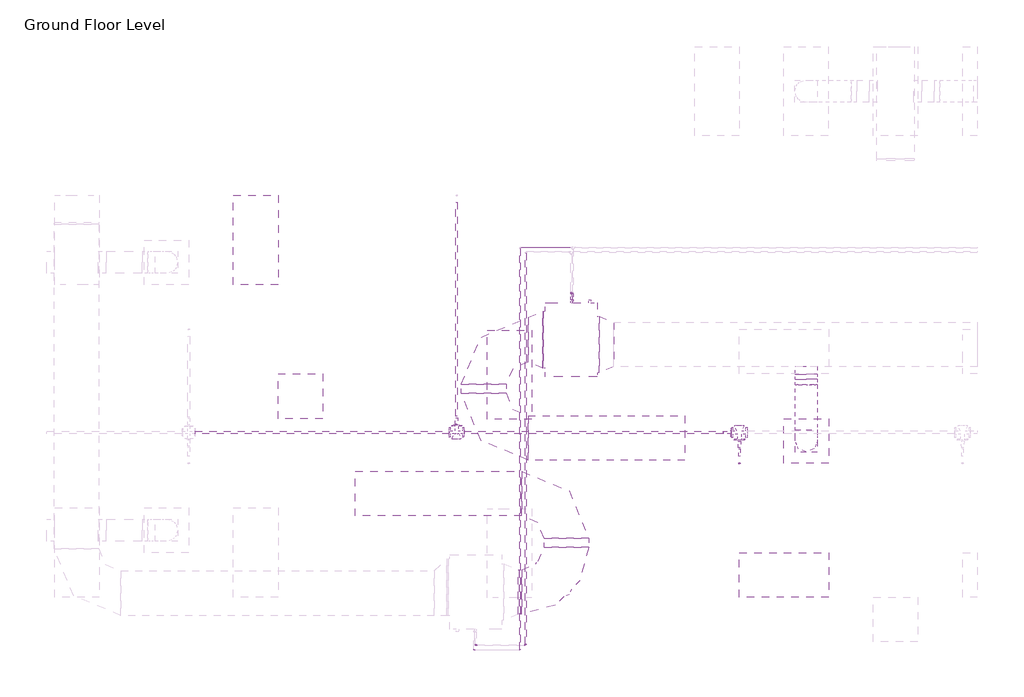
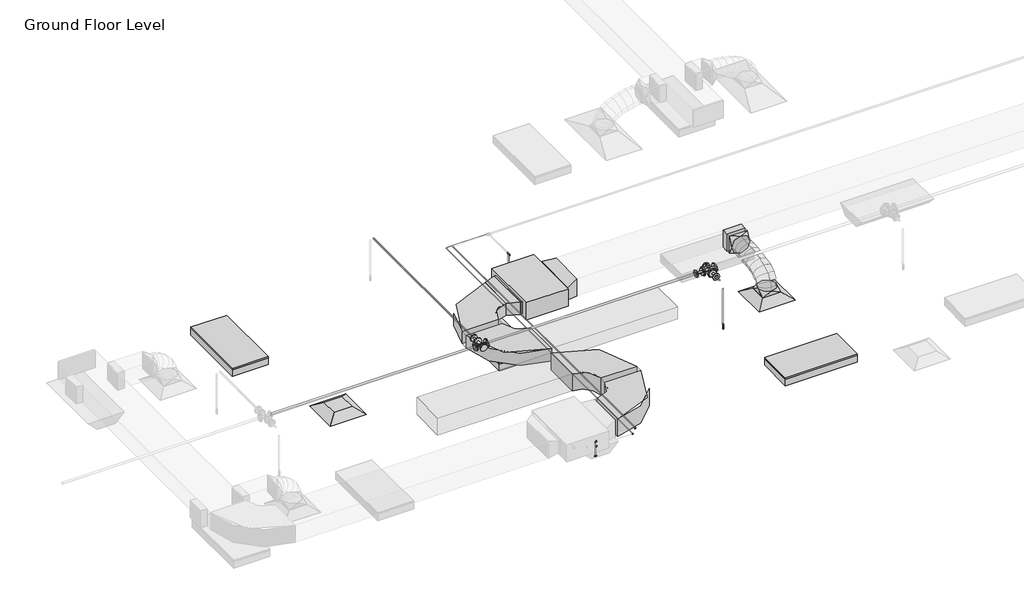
# One storey, part 12 of 75: 15 pipe fittings, 14 pipe segments, 9 duct fittings, 8 duct segments, 3 light fixtures, 2 air terminals, 1 fire suppression terminal, 1 proxy.
"""IFC4 building model written with IfcOpenShell, lengths in millimetres."""

from ifc_helpers import new_model, si_unit, point, frame, frame_2d, origin, place, context, project, spatial, polyline, circle_curve, ellipse_curve, trimmed, segment, composite_curve, outline, extrude, transform, mapped, element, save
from ifc_brep_helpers import plane_surface, cylinder_surface, advanced_brep
from components import m_return_diffuser_600_x_600_face_300_x_300_connection_ff221211, fcu_daikin_iu_7e1df382, m_rectangular_elbow_radius_1_w_907e8aaa, m_rectangular_elbow_radius_1_w_c6ed0251, m_rectangular_takeoff_standard_2be5eba1, m_rectangular_transition_angle_45_degree_ee72770e, m_rectangular_transition_angle_45_degree_4bb09f68, m_rectangular_to_round_transition_angle_45_degree_641efff0, m_sprinkler_dry_pendent_hosted_15_mm_dry_pendent_9bda8e11, m_troffer_light_parabolic_rectangular1_0600x1200mm_4_lamp_86473d4a, m_elbow_generic_standard_a088f956, m_elbow_generic_standard_2a704253, m_elbow_generic_standard_4cd29557, m_elbow_generic_standard_9f216293, m_reducer_flanged_cs_class_150_standard_b6b67c23, m_reducer_flanged_cs_class_150_standard_ccf252ad, m_reducer_flanged_cs_class_150_standard_678fb8eb, m_tee_round_base_flanged_cs_class_150_standard_7e5987a1, m_tee_round_base_flanged_cs_class_150_standard_9c9133d0

model = new_model("IFC4")

# Units and contexts
model_context = context("Model", 3, world=origin())
ifc_project = project(units=[si_unit("LENGTHUNIT", "METRE", prefix="MILLI")], contexts=[model_context])

# Site, building, storey
site = spatial("IfcSite", under=ifc_project)
building = spatial("IfcBuilding", under=site)
storey = spatial("IfcBuildingStorey", under=building, Name="Ground Floor Level", Elevation=900.0)

# Air terminals
placement = place(None, origin())
m_return_diffuser_600_x_600_face_300_x_300_connection_shape = m_return_diffuser_600_x_600_face_300_x_300_connection_ff221211(model_context)
element("IfcAirTerminal", 1, ObjectType="M_Return Diffuser : 600 x 600 Face 300 x 300 Connection", at=placement, inside=storey, context=model_context, shape_type="MappedRepresentation", body=[
    mapped(m_return_diffuser_600_x_600_face_300_x_300_connection_shape, transform((-14937.2327605, -2464.7846466, 3650.0), x_axis=(1.0, 0.0, 0.0), y_axis=(0.0, 1.0, 0.0), z_axis=(0.0, 0.0, 1.0))),
])
element("IfcAirTerminal", 2, ObjectType="M_Supply Diffuser : 600 x 600 Face 300 x 300 Connection", at=placement, inside=storey, context=model_context, shape_type="MappedRepresentation", body=[
    mapped(m_return_diffuser_600_x_600_face_300_x_300_connection_shape, transform((-8137.2327605, -3064.7846466, 3650.0), x_axis=(1.0, 0.0, 0.0), y_axis=(0.0, 1.0, 0.0), z_axis=(0.0, 0.0, 1.0))),
])

# Proxy
fcu_daikin_iu_shape = fcu_daikin_iu_7e1df382(model_context)
element("IfcBuildingElementProxy", 3, Name="FCU-DAIKIN IU : 5.7kW, 230V/50Hz/1Ph", ObjectType="FCU-DAIKIN IU : 5.7kW, 230V/50Hz/1Ph", at=placement, inside=storey, context=model_context, shape_type="MappedRepresentation", body=[
    mapped(fcu_daikin_iu_shape, transform((-11297.2327605, -1704.7846466, 3934.0873731), x_axis=(0.0, 1.0, 0.0), y_axis=(-1.0, 0.0, 0.0), z_axis=(0.0, 0.0, 1.0))),
])

# Duct fittings
m_rectangular_elbow_radius_1_w_shape = m_rectangular_elbow_radius_1_w_907e8aaa(model_context)
element("IfcDuctFitting", 4, ObjectType="M_Rectangular Elbow - Radius : 1 W", at=placement, inside=storey, context=model_context, shape_type="MappedRepresentation", body=[
    mapped(m_rectangular_elbow_radius_1_w_shape, transform((-12472.6327605, -1704.7846466, 4075.2873731), x_axis=(-1.0, 0.0, 0.0), y_axis=(0.0, -1.0, 0.0), z_axis=(0.0, 0.0, 1.0))),
])
element("IfcDuctFitting", 5, ObjectType="M_Rectangular Elbow - Radius : 1 W", at=placement, inside=storey, context=model_context, shape_type="MappedRepresentation", body=[
    mapped(m_rectangular_elbow_radius_1_w_shape, transform((-12472.6327605, -3024.7846466, 4075.2873731), x_axis=(0.0, -1.0, 0.0), y_axis=(1.0, 0.0, 0.0), z_axis=(0.0, 0.0, 1.0))),
])
m_rectangular_elbow_radius_1_w_2_shape = m_rectangular_elbow_radius_1_w_c6ed0251(model_context)
element("IfcDuctFitting", 6, ObjectType="M_Rectangular Elbow - Radius : 1 W", at=placement, inside=storey, context=model_context, shape_type="MappedRepresentation", body=[
    mapped(m_rectangular_elbow_radius_1_w_2_shape, transform((-11361.8327606, -5093.8471466, 4075.3020647), x_axis=(0.9999999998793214, 0.0, 1.5535678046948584e-05), y_axis=(0.0, 1.0000000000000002, 0.0), z_axis=(-1.5535678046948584e-05, 0.0, 0.9999999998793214))),
])
element("IfcDuctFitting", 7, ObjectType="M_Rectangular Elbow - Radius : 1 W", at=placement, inside=storey, context=model_context, shape_type="MappedRepresentation", body=[
    mapped(m_rectangular_elbow_radius_1_w_2_shape, transform((-11361.8327606, -3773.8471466, 4075.3020647), x_axis=(0.0, 1.0, 0.0), y_axis=(-1.0, 0.0, 0.0), z_axis=(0.0, 0.0, 1.0))),
])
m_rectangular_takeoff_standard_shape = m_rectangular_takeoff_standard_2be5eba1(model_context)
element("IfcDuctFitting", 8, ObjectType="M_Rectangular Takeoff : Standard", at=placement, inside=storey, context=model_context, shape_type="MappedRepresentation", body=[
    mapped(m_rectangular_takeoff_standard_shape, transform((-8137.2327605, -2068.2846466, 4099.9964558), x_axis=(0.0, -1.0, 0.0), y_axis=(-1.0, 0.0, 0.0), z_axis=(0.0, 0.0, -1.0))),
])
m_rectangular_transition_angle_45_degree_shape = m_rectangular_transition_angle_45_degree_ee72770e(model_context)
element("IfcDuctFitting", 9, ObjectType="M_Rectangular Transition - Angle : 45 Degree", at=placement, inside=storey, context=model_context, shape_type="MappedRepresentation", body=[
    mapped(m_rectangular_transition_angle_45_degree_shape, transform((-10921.8327605, -1768.2846466, 4099.9998731), x_axis=(1.0, 0.0, 0.0), y_axis=(0.0, 1.0, 0.0), z_axis=(0.0, 0.0, 1.0))),
])
m_rectangular_transition_angle_45_degree_2_shape = m_rectangular_transition_angle_45_degree_4bb09f68(model_context)
element("IfcDuctFitting", 10, ObjectType="M_Rectangular Transition - Angle : 45 Degree", at=placement, inside=storey, context=model_context, shape_type="MappedRepresentation", body=[
    mapped(m_rectangular_transition_angle_45_degree_2_shape, transform((-11872.6327605, -1704.7846466, 4075.2873731), x_axis=(1.0, 0.0, 0.0), y_axis=(0.0, 1.0, 0.0), z_axis=(0.0, 0.0, 1.0))),
])
m_rectangular_to_round_transition_angle_45_degree_shape = m_rectangular_to_round_transition_angle_45_degree_641efff0(model_context)
element("IfcDuctFitting", 11, ObjectType="M_Rectangular to Round Transition - Angle : 45 Degree", at=placement, inside=storey, context=model_context, shape_type="MappedRepresentation", body=[
    mapped(m_rectangular_to_round_transition_angle_45_degree_shape, transform((-8137.2327605, -3064.7846466, 3751.6), x_axis=(0.0, 0.0, 1.0), y_axis=(-1.0, 0.0, 0.0), z_axis=(0.0, -1.0, 0.0))),
])
element("IfcDuctFitting", 12, ObjectType="M_Rectangular to Round Transition - Angle : 45 Degree", at=placement, inside=storey, context=model_context, shape_type="MappedRepresentation", body=[
    mapped(m_rectangular_to_round_transition_angle_45_degree_shape, transform((-8137.2327605, -2237.4451712, 4099.9964558), x_axis=(0.0, -1.0, 0.0), y_axis=(1.0, 0.0, 0.0), z_axis=(0.0, 0.0, 1.0))),
])

# Duct segments
element("IfcDuctSegment", 13, ObjectType="Flex - Round", at=placement, inside=storey, context=model_context, shape_type="AdvancedBrep", body=[
    advanced_brep(
    [(-7987.2327605, -3064.7846466, 3826.6), (-8137.2327605, -3214.7846466, 3826.6), (-8287.2327605, -3064.7846466, 3826.6), (-8137.2327605, -2914.7846466, 3826.6), (-7987.2327605, -3064.7846466, 3857.9378602), (-8137.2327605, -3214.7846466, 3883.5812643), (-8287.2327605, -3064.7846466, 3857.9378602), (-8137.2327605, -2914.7846466, 3832.2944561), (-7987.2327605, -3047.7686158, 3906.2506375), (-8137.2327605, -3181.5063715, 3978.0666298), (-8287.2327605, -3047.7686158, 3906.2506375), (-8137.2327605, -2914.03086, 3834.4346451), (-7987.2327605, -3000.5844679, 3968.7111509), (-8137.2327605, -3104.7897605, 4079.6210528), (-8287.2327605, -3000.5844679, 3968.7111509), (-8137.2327605, -2896.3791753, 3857.801249), (-7987.2327605, -2929.0281198, 4016.0694592), (-8137.2327605, -2997.9612194, 4150.3236405), (-8287.2327605, -2929.0281198, 4016.0694592), (-8137.2327605, -2860.0950201, 3881.8152779), (-7987.2327605, -2838.8954883, 4050.4134811), (-8137.2327605, -2882.4552066, 4194.3359031), (-8287.2327605, -2838.8954883, 4050.4134811), (-8137.2327605, -2795.33577, 3906.4910592), (-7987.2327605, -2735.9824904, 4073.8311356), (-8137.2327605, -2762.5424239, 4221.6218258), (-8287.2327605, -2735.9824904, 4073.8311356), (-8137.2327605, -2709.4225569, 3926.0404454), (-7987.2327605, -2626.0850428, 4088.4103415), (-8137.2327605, -2641.2350842, 4237.7146898), (-8287.2327605, -2626.0850428, 4088.4103415), (-8137.2327605, -2610.9350014, 3939.1059931), (-7987.2327605, -2514.9990625, 4096.2390176), (-8137.2327605, -2522.5037209, 4246.0821669), (-8287.2327605, -2514.9990625, 4096.2390176), (-8137.2327605, -2507.4944041, 3946.3958683), (-7987.2327605, -2408.5204663, 4099.4050828), (-8137.2327605, -2411.2115659, 4249.3913598), (-8287.2327605, -2408.5204663, 4099.4050828), (-8137.2327605, -2405.8293668, 3949.4188057), (-7987.2327605, -2312.4451712, 4099.9964558), (-8137.2327605, -2311.5218924, 3949.9992973), (-8287.2327605, -2312.4451712, 4099.9964558), (-8137.2327605, -2313.36845, 4249.9936143)],
    [
        (0, 1, circle_curve(frame((-8137.2327605, -3064.7846466, 3826.6), z_axis=(0.0, 0.0, -1.0), x_axis=(1.0, 0.0, 0.0)), 150.0)),
        (1, 2, circle_curve(frame((-8137.2327605, -3064.7846466, 3826.6), z_axis=(0.0, 0.0, -1.0), x_axis=(1.0, 0.0, 0.0)), 150.0)),
        (2, 3, circle_curve(frame((-8137.2327605, -3064.7846466, 3826.6), z_axis=(0.0, 0.0, -1.0), x_axis=(1.0, 0.0, 0.0)), 150.0)),
        (3, 0, circle_curve(frame((-8137.2327605, -3064.7846466, 3826.6), z_axis=(0.0, 0.0, -1.0), x_axis=(1.0, 0.0, 0.0)), 150.0)),
        (0, 4),
        (4, 5, ellipse_curve(frame((-8137.2327605, -3064.7846466, 3857.9378602), z_axis=(0.0, -0.16851130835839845, -0.9856997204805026), x_axis=(0.0, 0.9856997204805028, -0.1685113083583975)), 152.1761616, 150.0)),
        (5, 1),
        (5, 6, ellipse_curve(frame((-8137.2327605, -3064.7846466, 3857.9378602), z_axis=(0.0, -0.16851130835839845, -0.9856997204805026), x_axis=(0.0, 0.9856997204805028, -0.1685113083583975)), 152.1761616, 150.0)),
        (6, 2),
        (6, 7, ellipse_curve(frame((-8137.2327605, -3064.7846466, 3857.9378602), z_axis=(0.0, -0.16851130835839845, -0.9856997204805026), x_axis=(0.0, 0.9856997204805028, -0.1685113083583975)), 152.1761616, 150.0)),
        (7, 3),
        (7, 4, ellipse_curve(frame((-8137.2327605, -3064.7846466, 3857.9378602), z_axis=(0.0, -0.16851130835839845, -0.9856997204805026), x_axis=(0.0, 0.9856997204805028, -0.1685113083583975)), 152.1761616, 150.0)),
        (4, 8),
        (8, 9, ellipse_curve(frame((-8137.2327605, -3047.7686158, 3906.2506375), z_axis=(0.0, -0.47309526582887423, -0.8810112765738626), x_axis=(0.0, 0.8810112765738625, -0.4730952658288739)), 151.8002769, 150.0)),
        (9, 5),
        (9, 10, ellipse_curve(frame((-8137.2327605, -3047.7686158, 3906.2506375), z_axis=(0.0, -0.47309526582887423, -0.8810112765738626), x_axis=(0.0, 0.8810112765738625, -0.4730952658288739)), 151.8002769, 150.0)),
        (10, 6),
        (10, 11, ellipse_curve(frame((-8137.2327605, -3047.7686158, 3906.2506375), z_axis=(0.0, -0.47309526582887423, -0.8810112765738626), x_axis=(0.0, 0.8810112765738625, -0.4730952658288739)), 151.8002769, 150.0)),
        (11, 7),
        (11, 8, ellipse_curve(frame((-8137.2327605, -3047.7686158, 3906.2506375), z_axis=(0.0, -0.47309526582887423, -0.8810112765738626), x_axis=(0.0, 0.8810112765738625, -0.4730952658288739)), 151.8002769, 150.0)),
        (8, 12),
        (12, 13, ellipse_curve(frame((-8137.2327605, -3000.5844679, 3968.7111509), z_axis=(0.0, -0.7287916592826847, -0.6847355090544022), x_axis=(0.0, 0.6847355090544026, -0.7287916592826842)), 152.1832755, 150.0)),
        (13, 9),
        (13, 14, ellipse_curve(frame((-8137.2327605, -3000.5844679, 3968.7111509), z_axis=(0.0, -0.7287916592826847, -0.6847355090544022), x_axis=(0.0, 0.6847355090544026, -0.7287916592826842)), 152.1832755, 150.0)),
        (14, 10),
        (14, 15, ellipse_curve(frame((-8137.2327605, -3000.5844679, 3968.7111509), z_axis=(0.0, -0.7287916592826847, -0.6847355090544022), x_axis=(0.0, 0.6847355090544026, -0.7287916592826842)), 152.1832755, 150.0)),
        (15, 11),
        (15, 12, ellipse_curve(frame((-8137.2327605, -3000.5844679, 3968.7111509), z_axis=(0.0, -0.7287916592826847, -0.6847355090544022), x_axis=(0.0, 0.6847355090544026, -0.7287916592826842)), 152.1832755, 150.0)),
        (12, 16),
        (16, 17, ellipse_curve(frame((-8137.2327605, -2929.0281198, 4016.0694592), z_axis=(0.0, -0.8895891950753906, -0.45676149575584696), x_axis=(0.0, 0.45676149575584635, -0.8895891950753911)), 150.9170548, 150.0)),
        (17, 13),
        (17, 18, ellipse_curve(frame((-8137.2327605, -2929.0281198, 4016.0694592), z_axis=(0.0, -0.8895891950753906, -0.45676149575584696), x_axis=(0.0, 0.45676149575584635, -0.8895891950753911)), 150.9170548, 150.0)),
        (18, 14),
        (18, 19, ellipse_curve(frame((-8137.2327605, -2929.0281198, 4016.0694592), z_axis=(0.0, -0.8895891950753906, -0.45676149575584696), x_axis=(0.0, 0.45676149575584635, -0.8895891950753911)), 150.9170548, 150.0)),
        (19, 15),
        (19, 16, ellipse_curve(frame((-8137.2327605, -2929.0281198, 4016.0694592), z_axis=(0.0, -0.8895891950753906, -0.45676149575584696), x_axis=(0.0, 0.45676149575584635, -0.8895891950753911)), 150.9170548, 150.0)),
        (16, 20),
        (20, 21, ellipse_curve(frame((-8137.2327605, -2838.8954883, 4050.4134811), z_axis=(0.0, -0.9571224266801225, -0.2896837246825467), x_axis=(0.0, 0.2896837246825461, -0.9571224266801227)), 150.3699192, 150.0)),
        (21, 17),
        (21, 22, ellipse_curve(frame((-8137.2327605, -2838.8954883, 4050.4134811), z_axis=(0.0, -0.9571224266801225, -0.2896837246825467), x_axis=(0.0, 0.2896837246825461, -0.9571224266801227)), 150.3699192, 150.0)),
        (22, 18),
        (22, 23, ellipse_curve(frame((-8137.2327605, -2838.8954883, 4050.4134811), z_axis=(0.0, -0.9571224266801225, -0.2896837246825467), x_axis=(0.0, 0.2896837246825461, -0.9571224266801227)), 150.3699192, 150.0)),
        (23, 19),
        (23, 20, ellipse_curve(frame((-8137.2327605, -2838.8954883, 4050.4134811), z_axis=(0.0, -0.9571224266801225, -0.2896837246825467), x_axis=(0.0, 0.2896837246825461, -0.9571224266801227)), 150.3699192, 150.0)),
        (20, 24),
        (24, 25, ellipse_curve(frame((-8137.2327605, -2735.9824904, 4073.8311356), z_axis=(0.0, -0.984232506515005, -0.17687954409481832), x_axis=(0.0, 0.17687954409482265, -0.9842325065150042)), 150.1583104, 150.0)),
        (25, 21),
        (25, 26, ellipse_curve(frame((-8137.2327605, -2735.9824904, 4073.8311356), z_axis=(0.0, -0.984232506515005, -0.17687954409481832), x_axis=(0.0, 0.17687954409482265, -0.9842325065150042)), 150.1583104, 150.0)),
        (26, 22),
        (26, 27, ellipse_curve(frame((-8137.2327605, -2735.9824904, 4073.8311356), z_axis=(0.0, -0.984232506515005, -0.17687954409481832), x_axis=(0.0, 0.17687954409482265, -0.9842325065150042)), 150.1583104, 150.0)),
        (27, 23),
        (27, 24, ellipse_curve(frame((-8137.2327605, -2735.9824904, 4073.8311356), z_axis=(0.0, -0.984232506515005, -0.17687954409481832), x_axis=(0.0, 0.17687954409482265, -0.9842325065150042)), 150.1583104, 150.0)),
        (24, 28),
        (28, 29, ellipse_curve(frame((-8137.2327605, -2626.0850428, 4088.4103415), z_axis=(0.0, -0.9948912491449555, -0.10095247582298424), x_axis=(0.0, 0.10095247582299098, -0.9948912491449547)), 150.0710238, 150.0)),
        (29, 25),
        (29, 30, ellipse_curve(frame((-8137.2327605, -2626.0850428, 4088.4103415), z_axis=(0.0, -0.9948912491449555, -0.10095247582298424), x_axis=(0.0, 0.10095247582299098, -0.9948912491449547)), 150.0710238, 150.0)),
        (30, 26),
        (30, 31, ellipse_curve(frame((-8137.2327605, -2626.0850428, 4088.4103415), z_axis=(0.0, -0.9948912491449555, -0.10095247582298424), x_axis=(0.0, 0.10095247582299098, -0.9948912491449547)), 150.0710238, 150.0)),
        (31, 27),
        (31, 28, ellipse_curve(frame((-8137.2327605, -2626.0850428, 4088.4103415), z_axis=(0.0, -0.9948912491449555, -0.10095247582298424), x_axis=(0.0, 0.10095247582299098, -0.9948912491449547)), 150.0710238, 150.0)),
        (28, 32),
        (32, 33, ellipse_curve(frame((-8137.2327605, -2514.9990625, 4096.2390176), z_axis=(0.0, -0.9987481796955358, -0.05002073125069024), x_axis=(0.0, 0.05002073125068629, -0.998748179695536)), 150.0309611, 150.0)),
        (33, 29),
        (33, 34, ellipse_curve(frame((-8137.2327605, -2514.9990625, 4096.2390176), z_axis=(0.0, -0.9987481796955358, -0.05002073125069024), x_axis=(0.0, 0.05002073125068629, -0.998748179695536)), 150.0309611, 150.0)),
        (34, 30),
        (34, 35, ellipse_curve(frame((-8137.2327605, -2514.9990625, 4096.2390176), z_axis=(0.0, -0.9987481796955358, -0.05002073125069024), x_axis=(0.0, 0.05002073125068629, -0.998748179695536)), 150.0309611, 150.0)),
        (35, 31),
        (35, 32, ellipse_curve(frame((-8137.2327605, -2514.9990625, 4096.2390176), z_axis=(0.0, -0.9987481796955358, -0.05002073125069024), x_axis=(0.0, 0.05002073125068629, -0.998748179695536)), 150.0309611, 150.0)),
        (32, 36),
        (36, 37, ellipse_curve(frame((-8137.2327605, -2408.5204663, 4099.4050828), z_axis=(0.0, -0.9998390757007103, -0.017939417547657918), x_axis=(0.0, 0.01793941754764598, -0.9998390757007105)), 150.0104173, 150.0)),
        (37, 33),
        (37, 38, ellipse_curve(frame((-8137.2327605, -2408.5204663, 4099.4050828), z_axis=(0.0, -0.9998390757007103, -0.017939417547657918), x_axis=(0.0, 0.01793941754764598, -0.9998390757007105)), 150.0104173, 150.0)),
        (38, 34),
        (38, 39, ellipse_curve(frame((-8137.2327605, -2408.5204663, 4099.4050828), z_axis=(0.0, -0.9998390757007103, -0.017939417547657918), x_axis=(0.0, 0.01793941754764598, -0.9998390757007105)), 150.0104173, 150.0)),
        (39, 35),
        (39, 36, ellipse_curve(frame((-8137.2327605, -2408.5204663, 4099.4050828), z_axis=(0.0, -0.9998390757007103, -0.017939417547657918), x_axis=(0.0, 0.01793941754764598, -0.9998390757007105)), 150.0104173, 150.0)),
        (40, 41, circle_curve(frame((-8137.2327605, -2312.4451712, 4099.9964558), z_axis=(0.0, 0.9999810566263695, 0.006155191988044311), x_axis=(1.0, 0.0, 0.0)), 150.0)),
        (41, 42, circle_curve(frame((-8137.2327605, -2312.4451712, 4099.9964558), z_axis=(0.0, 0.9999810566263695, 0.006155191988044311), x_axis=(1.0, 0.0, 0.0)), 150.0)),
        (42, 43, circle_curve(frame((-8137.2327605, -2312.4451712, 4099.9964558), z_axis=(0.0, 0.9999810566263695, 0.006155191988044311), x_axis=(1.0, 0.0, 0.0)), 150.0)),
        (43, 40, circle_curve(frame((-8137.2327605, -2312.4451712, 4099.9964558), z_axis=(0.0, 0.9999810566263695, 0.006155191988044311), x_axis=(1.0, 0.0, 0.0)), 150.0)),
        (36, 40),
        (43, 37),
        (42, 38),
        (41, 39),
    ],
    [
        plane_surface(frame((-8137.2327605, -3214.7846466, 3826.6), z_axis=(0.0, 0.0, -1.0), x_axis=(1.0, 0.0, 0.0))),
        cylinder_surface(frame((-8137.2327605, -3064.7846466, 3826.6), z_axis=(0.0, 0.0, -1.0), x_axis=(1.0, 0.0, 0.0)), 150.0),
        cylinder_surface(frame((-8137.2327605, -3064.7846466, 3857.9378602), z_axis=(0.0, -0.3322030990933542, -0.9432078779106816), x_axis=(1.0, 0.0, 0.0)), 150.0),
        cylinder_surface(frame((-8137.2327605, -3047.7686158, 3906.2506375), z_axis=(0.0, -0.6027660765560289, -0.7979179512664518), x_axis=(1.0, 0.0, 0.0)), 150.0),
        cylinder_surface(frame((-8137.2327605, -3000.5844679, 3968.7111509), z_axis=(0.0, -0.8339062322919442, -0.5519061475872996), x_axis=(1.0, 0.0, 0.0)), 150.0),
        cylinder_surface(frame((-8137.2327605, -2929.0281198, 4016.0694592), z_axis=(0.0, -0.9344608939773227, -0.356065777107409), x_axis=(1.0, 0.0, 0.0)), 150.0),
        cylinder_surface(frame((-8137.2327605, -2838.8954883, 4050.4134811), z_axis=(0.0, -0.9750748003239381, -0.22187639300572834), x_axis=(1.0, 0.0, 0.0)), 150.0),
        cylinder_surface(frame((-8137.2327605, -2735.9824904, 4073.8311356), z_axis=(0.0, -0.9913148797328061, -0.13150973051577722), x_axis=(1.0, 0.0, 0.0)), 150.0),
        cylinder_surface(frame((-8137.2327605, -2626.0850428, 4088.4103415), z_axis=(0.0, -0.9975259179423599, -0.07029966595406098), x_axis=(1.0, 0.0, 0.0)), 150.0),
        cylinder_surface(frame((-8137.2327605, -2514.9990625, 4096.2390176), z_axis=(0.0, -0.9995582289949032, -0.029721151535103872), x_axis=(1.0, 0.0, 0.0)), 150.0),
        plane_surface(frame((-8137.2327605, -2313.36845, 4249.9936143), z_axis=(0.0, 0.9999810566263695, 0.006155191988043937), x_axis=(1.0, 0.0, 0.0))),
        cylinder_surface(frame((-8137.2327605, -2408.5204663, 4099.4050828), z_axis=(0.0, -0.9999810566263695, -0.006155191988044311), x_axis=(1.0, 0.0, 0.0)), 150.0),
    ],
    [
        (0, [[1, 2, 3, 4]]),
        (1, [[-1, 5, 6, 7]]),
        (1, [[-2, -7, 8, 9]]),
        (1, [[-3, -9, 10, 11]]),
        (1, [[-4, -11, 12, -5]]),
        (2, [[-6, 13, 14, 15]]),
        (2, [[-8, -15, 16, 17]]),
        (2, [[-10, -17, 18, 19]]),
        (2, [[-12, -19, 20, -13]]),
        (3, [[-14, 21, 22, 23]]),
        (3, [[-16, -23, 24, 25]]),
        (3, [[-18, -25, 26, 27]]),
        (3, [[-20, -27, 28, -21]]),
        (4, [[-22, 29, 30, 31]]),
        (4, [[-24, -31, 32, 33]]),
        (4, [[-26, -33, 34, 35]]),
        (4, [[-28, -35, 36, -29]]),
        (5, [[-30, 37, 38, 39]]),
        (5, [[-32, -39, 40, 41]]),
        (5, [[-34, -41, 42, 43]]),
        (5, [[-36, -43, 44, -37]]),
        (6, [[-38, 45, 46, 47]]),
        (6, [[-40, -47, 48, 49]]),
        (6, [[-42, -49, 50, 51]]),
        (6, [[-44, -51, 52, -45]]),
        (7, [[-46, 53, 54, 55]]),
        (7, [[-48, -55, 56, 57]]),
        (7, [[-50, -57, 58, 59]]),
        (7, [[-52, -59, 60, -53]]),
        (8, [[-54, 61, 62, 63]]),
        (8, [[-56, -63, 64, 65]]),
        (8, [[-58, -65, 66, 67]]),
        (8, [[-60, -67, 68, -61]]),
        (9, [[-62, 69, 70, 71]]),
        (9, [[-64, -71, 72, 73]]),
        (9, [[-66, -73, 74, 75]]),
        (9, [[-68, -75, 76, -69]]),
        (10, [[77, 78, 79, 80]]),
        (11, [[-70, 81, -80, 82]]),
        (11, [[-72, -82, -79, 83]]),
        (11, [[-74, -83, -78, 84]]),
        (11, [[-76, -84, -77, -81]]),
    ],
),
])
element("IfcDuctSegment", 14, ObjectType="Radius Elbows / Taps", at=placement, inside=storey, context=model_context, shape_type="SweptSolid", body=[
    extrude(outline(polyline([(-11672.6327605, -1323.8471466), (-11672.6327605, -2085.7221466), (-11677.2323503, -2085.7221466), (-11677.2323503, -1323.8471466), (-11672.6327605, -1323.8471466)])), frame((0.0, 0.0, 3968.1373731), z_axis=(0.0, 0.0, 1.0), x_axis=(1.0, 0.0, 0.0)), (0.0, 0.0, 1.0), 214.3),
])
element("IfcDuctSegment", 15, ObjectType="Radius Elbows / Taps", at=placement, inside=storey, context=model_context, shape_type="SweptSolid", body=[
    extrude(outline(polyline([(-12772.6327605, -2304.7846466), (-12172.6327605, -2304.7846466), (-12172.6327605, -2424.7846466), (-12772.6327605, -2424.7846466), (-12772.6327605, -2304.7846466)])), frame((0.0, 0.0, 3968.2873731), z_axis=(0.0, 0.0, 1.0), x_axis=(1.0, 0.0, 0.0)), (0.0, 0.0, 1.0), 214.0),
])
element("IfcDuctSegment", 16, ObjectType="Radius Elbows / Taps", at=placement, inside=storey, context=model_context, shape_type="SweptSolid", body=[
    extrude(outline(polyline([(-11872.6327605, -3324.7846466), (-11872.6327605, -2724.7846466), (-9772.6327605, -2724.7846466), (-9772.6327605, -3324.7846466), (-11872.6327605, -3324.7846466)])), frame((0.0, 0.0, 3968.2873731), z_axis=(0.0, 0.0, 1.0), x_axis=(1.0, 0.0, 0.0)), (0.0, 0.0, 1.0), 214.0),
])
element("IfcDuctSegment", 17, ObjectType="Radius Elbows / Taps", at=placement, inside=storey, context=model_context, shape_type="SweptSolid", body=[
    extrude(outline(polyline([(0.0, -600.0), (0.0, 0.0), (44.5995899, 0.0), (44.5995899, -600.0), (0.0, -600.0)])), frame((-12006.4216599, -4793.8471466, 3925.2895651), z_axis=(-7.126956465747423e-05, 0.0, 0.9999999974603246), x_axis=(0.9999999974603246, 0.0, 7.126956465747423e-05)), (0.0, 0.0, 1.0), 300.0),
])
element("IfcDuctSegment", 18, ObjectType="Radius Elbows / Taps", at=placement, inside=storey, context=model_context, shape_type="SweptSolid", body=[
    extrude(outline(polyline([(-11061.8327606, -4493.8471466), (-11661.8327606, -4493.8471466), (-11661.8327606, -4373.8471466), (-11061.8327606, -4373.8471466), (-11061.8327606, -4493.8471466)])), frame((0.0, 0.0, 3925.3020647), z_axis=(0.0, 0.0, 1.0), x_axis=(1.0, 0.0, 0.0)), (0.0, 0.0, 1.0), 300.0),
])
element("IfcDuctSegment", 19, ObjectType="Radius Elbows / Taps", at=placement, inside=storey, context=model_context, shape_type="SweptSolid", body=[
    extrude(outline(polyline([(-11961.8327606, -3473.8471466), (-11961.8327606, -4073.8471466), (-14201.8327606, -4073.8471466), (-14201.8327606, -3473.8471466), (-11961.8327606, -3473.8471466)])), frame((0.0, 0.0, 3925.3020647), z_axis=(0.0, 0.0, 1.0), x_axis=(1.0, 0.0, 0.0)), (0.0, 0.0, 1.0), 300.0),
])
element("IfcDuctSegment", 20, ObjectType="Radius Elbows / Taps", at=placement, inside=storey, context=model_context, shape_type="SweptSolid", body=[
    extrude(outline(polyline([(-8287.2327605, -2169.8846466), (-7987.2327605, -2169.8846466), (-7987.2327605, -2237.4451712), (-8287.2327605, -2237.4451712), (-8287.2327605, -2169.8846466)])), frame((0.0, 0.0, 3949.9964558), z_axis=(0.0, 0.0, 1.0), x_axis=(1.0, 0.0, 0.0)), (0.0, 0.0, 1.0), 300.0),
])

# Fire suppression terminal
m_sprinkler_dry_pendent_hosted_15_mm_dry_pendent_shape = m_sprinkler_dry_pendent_hosted_15_mm_dry_pendent_9bda8e11(model_context)
element("IfcFireSuppressionTerminal", 21, ObjectType="M_Sprinkler - Dry - Pendent - Hosted : 15 mm Dry Pendent", at=placement, inside=storey, context=model_context, shape_type="MappedRepresentation", body=[
    mapped(m_sprinkler_dry_pendent_hosted_15_mm_dry_pendent_shape, transform((-9037.2327605, -3364.7846466, 3650.0), x_axis=(1.0, 0.0, 0.0), y_axis=(0.0, -1.0, 0.0), z_axis=(0.0, 0.0, -1.0))),
])

# Light fixtures
m_troffer_light_parabolic_rectangular1_0600x1200mm_4_lamp_shape = m_troffer_light_parabolic_rectangular1_0600x1200mm_4_lamp_86473d4a(model_context)
element("IfcLightFixture", 22, ObjectType="M_Troffer Light - Parabolic Rectangular1 : 0600x1200mm(4 Lamp) - 277V 2", at=placement, inside=storey, context=model_context, shape_type="MappedRepresentation", body=[
    mapped(m_troffer_light_parabolic_rectangular1_0600x1200mm_4_lamp_shape, transform((-8418.5292589, -4805.3187145, 3650.0), x_axis=(1.0, 0.0, 0.0), y_axis=(0.0, 1.0, 0.0), z_axis=(0.0, 0.0, 1.0))),
])
element("IfcLightFixture", 23, ObjectType="M_Troffer Light - Parabolic Rectangular1 : 0600x1200mm(4 Lamp) - 277V 2", at=placement, inside=storey, context=model_context, shape_type="MappedRepresentation", body=[
    mapped(m_troffer_light_parabolic_rectangular1_0600x1200mm_4_lamp_shape, transform((-15596.6986926, -346.081145, 3650.0), x_axis=(0.0, 1.0, 0.0), y_axis=(-1.0, 0.0, 0.0), z_axis=(0.0, 0.0, 1.0))),
])
element("IfcLightFixture", 24, ObjectType="M_Troffer Light - Parabolic Rectangular1 : 0600x1200mm(4 Lamp) - 277V 2", at=placement, inside=storey, context=model_context, shape_type="MappedRepresentation", body=[
    mapped(m_troffer_light_parabolic_rectangular1_0600x1200mm_4_lamp_shape, transform((-12186.6986926, -2156.081145, 3650.0), x_axis=(0.0, 1.0, 0.0), y_axis=(-1.0, 0.0, 0.0), z_axis=(0.0, 0.0, 1.0))),
])

# Pipe fittings
m_elbow_generic_standard_shape = m_elbow_generic_standard_a088f956(model_context)
element("IfcPipeFitting", 25, ObjectType="M_Elbow - Generic : Standard", at=placement, inside=storey, context=model_context, shape_type="MappedRepresentation", body=[
    mapped(m_elbow_generic_standard_shape, transform((-11297.2327605, -1071.9971568, 4034.0873731), x_axis=(0.0, 1.0, 0.0), y_axis=(0.0, 0.0, 1.0), z_axis=(1.0, 0.0, 0.0))),
])
element("IfcPipeFitting", 26, ObjectType="M_Elbow - Generic : Standard", at=placement, inside=storey, context=model_context, shape_type="MappedRepresentation", body=[
    mapped(m_elbow_generic_standard_shape, transform((-11297.2327605, -1071.9971568, 4300.0), x_axis=(0.0, 0.0, 1.0), y_axis=(0.0, 1.0, 0.0), z_axis=(-1.0, 0.0, 0.0))),
])
element("IfcPipeFitting", 27, ObjectType="M_Elbow - Generic : Standard", at=placement, inside=storey, context=model_context, shape_type="MappedRepresentation", body=[
    mapped(m_elbow_generic_standard_shape, transform((-12577.2327605, -5809.7026455, 4300.0), x_axis=(-1.0, 0.0, 0.0), y_axis=(0.0, 0.0, -1.0), z_axis=(0.0, -1.0, 0.0))),
])
element("IfcPipeFitting", 28, ObjectType="M_Elbow - Generic : Standard", at=placement, inside=storey, context=model_context, shape_type="MappedRepresentation", body=[
    mapped(m_elbow_generic_standard_shape, transform((-11906.7458667, -5809.7026455, 4300.0), x_axis=(1.0, 0.0, 0.0), y_axis=(0.0, 1.0, 0.0), z_axis=(0.0, 0.0, 1.0))),
])
m_elbow_generic_standard_2_shape = m_elbow_generic_standard_2a704253(model_context)
element("IfcPipeFitting", 29, ObjectType="M_Elbow - Generic : Standard", at=placement, inside=storey, context=model_context, shape_type="MappedRepresentation", body=[
    mapped(m_elbow_generic_standard_2_shape, transform((-11272.2327605, -1075.1472648, 4084.8873731), x_axis=(0.0, 1.0, 0.0), y_axis=(0.0, 0.0, 1.0), z_axis=(1.0, 0.0, 0.0))),
])
element("IfcPipeFitting", 30, ObjectType="M_Elbow - Generic : Standard", at=placement, inside=storey, context=model_context, shape_type="MappedRepresentation", body=[
    mapped(m_elbow_generic_standard_2_shape, transform((-11272.2327605, -1075.1472648, 4265.0), x_axis=(0.0, 0.0, 1.0), y_axis=(0.0, 1.0, 0.0), z_axis=(-1.0, 0.0, 0.0))),
])
element("IfcPipeFitting", 31, ObjectType="M_Elbow - Generic : Standard", at=placement, inside=storey, context=model_context, shape_type="MappedRepresentation", body=[
    mapped(m_elbow_generic_standard_2_shape, transform((-12602.2327605, -5874.8439862, 4265.0), x_axis=(0.0, 0.0, 1.0), y_axis=(1.0, 0.0, 0.0), z_axis=(0.0, 1.0, 0.0))),
])
element("IfcPipeFitting", 32, ObjectType="M_Elbow - Generic : Standard", at=placement, inside=storey, context=model_context, shape_type="MappedRepresentation", body=[
    mapped(m_elbow_generic_standard_2_shape, transform((-11985.4153711, -5874.8439862, 4265.0), x_axis=(1.0, 0.0, 0.0), y_axis=(0.0, 1.0, 0.0), z_axis=(0.0, 0.0, 1.0))),
])
m_elbow_generic_standard_3_shape = m_elbow_generic_standard_4cd29557(model_context)
element("IfcPipeFitting", 33, ObjectType="M_Elbow - Generic : Standard", at=placement, inside=storey, context=model_context, shape_type="MappedRepresentation", body=[
    mapped(m_elbow_generic_standard_3_shape, transform((-12577.2327605, -5809.7208827, 4034.1117864), x_axis=(0.0, 0.0, -1.0), y_axis=(0.0, 1.0, 0.0), z_axis=(1.0, 0.0, 0.0))),
])
m_elbow_generic_standard_4_shape = m_elbow_generic_standard_9f216293(model_context)
element("IfcPipeFitting", 34, ObjectType="M_Elbow - Generic : Standard", at=placement, inside=storey, context=model_context, shape_type="MappedRepresentation", body=[
    mapped(m_elbow_generic_standard_4_shape, transform((-12602.2327605, -5874.8531048, 4084.9047463), x_axis=(0.0, -0.999999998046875, 6.250000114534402e-05), y_axis=(0.0, 6.250000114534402e-05, 0.999999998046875), z_axis=(-1.0, 0.0, 0.0))),
])
m_reducer_flanged_cs_class_150_standard_shape = m_reducer_flanged_cs_class_150_standard_b6b67c23(model_context)
element("IfcPipeFitting", 35, ObjectType="M_Reducer - Flanged - CS - Class 150 : Standard", at=placement, inside=storey, context=model_context, shape_type="MappedRepresentation", body=[
    mapped(m_reducer_flanged_cs_class_150_standard_shape, transform((-9143.3313543, -2950.3491993, 4360.0), x_axis=(-1.0, 0.0, 0.0), y_axis=(0.0, -1.0, 0.0), z_axis=(0.0, 0.0, 1.0))),
])
m_reducer_flanged_cs_class_150_standard_2_shape = m_reducer_flanged_cs_class_150_standard_ccf252ad(model_context)
element("IfcPipeFitting", 36, ObjectType="M_Reducer - Flanged - CS - Class 150 : Standard", at=placement, inside=storey, context=model_context, shape_type="MappedRepresentation", body=[
    mapped(m_reducer_flanged_cs_class_150_standard_2_shape, transform((-12837.2327605, -2849.6406055, 4360.0), x_axis=(0.0, 1.0, 0.0), y_axis=(-1.0, 0.0, 0.0), z_axis=(0.0, 0.0, 1.0))),
])
m_reducer_flanged_cs_class_150_standard_3_shape = m_reducer_flanged_cs_class_150_standard_678fb8eb(model_context)
element("IfcPipeFitting", 37, ObjectType="M_Reducer - Flanged - CS - Class 150 : Standard", at=placement, inside=storey, context=model_context, shape_type="MappedRepresentation", body=[
    mapped(m_reducer_flanged_cs_class_150_standard_3_shape, transform((-9037.2327605, -3056.447793, 4360.0), x_axis=(0.0, -1.0, 0.0), y_axis=(1.0, 0.0, 0.0), z_axis=(0.0, 0.0, 1.0))),
])
m_tee_round_base_flanged_cs_class_150_standard_shape = m_tee_round_base_flanged_cs_class_150_standard_7e5987a1(model_context)
element("IfcPipeFitting", 38, ObjectType="M_Tee Round Base - Flanged - CS - Class 150 : Standard", at=placement, inside=storey, context=model_context, shape_type="MappedRepresentation", body=[
    mapped(m_tee_round_base_flanged_cs_class_150_standard_shape, transform((-12837.2327605, -2950.3491993, 4360.0), x_axis=(1.0, 0.0, 0.0), y_axis=(0.0, -1.0, 0.0), z_axis=(0.0, 0.0, -1.0))),
])
m_tee_round_base_flanged_cs_class_150_standard_2_shape = m_tee_round_base_flanged_cs_class_150_standard_9c9133d0(model_context)
element("IfcPipeFitting", 39, ObjectType="M_Tee Round Base - Flanged - CS - Class 150 : Standard", at=placement, inside=storey, context=model_context, shape_type="MappedRepresentation", body=[
    mapped(m_tee_round_base_flanged_cs_class_150_standard_2_shape, transform((-9037.2327605, -2950.3491993, 4360.0), x_axis=(1.0, 0.0, 0.0), y_axis=(0.0, 1.0, 0.0), z_axis=(0.0, 0.0, 1.0))),
])

# Pipe segments
element("IfcPipeSegment", 40, ObjectType="Copper", at=placement, inside=storey, context=model_context, shape_type="SweptSolid", body=[
    extrude(outline(composite_curve([segment(trimmed(circle_curve(frame_2d((-465.9814862, 4265.0)), 3.35), [point((-469.3314862, 4265.0))], [point((-465.9814862, 4268.35))], False, "CARTESIAN"), True, "CONTINUOUS"), segment(trimmed(circle_curve(frame_2d((-465.9814862, 4265.0)), 3.35), [point((-465.9814862, 4268.35))], [point((-462.6314862, 4265.0))], False, "CARTESIAN"), True, "CONTINUOUS"), segment(trimmed(circle_curve(frame_2d((-465.9814862, 4265.0)), 3.35), [point((-462.6314862, 4265.0))], [point((-465.9814862, 4261.65))], False, "CARTESIAN"), True, "CONTINUOUS"), segment(trimmed(circle_curve(frame_2d((-465.9814862, 4265.0)), 3.35), [point((-465.9814862, 4261.65))], [point((-469.3314862, 4265.0))], False, "CARTESIAN"), True, "CONTINUOUS")], self_intersect=False)), frame((-11974.2778711, 0.0, 0.0), z_axis=(1.0, 0.0, 0.0), x_axis=(0.0, 1.0, 0.0)), (0.0, 0.0, 1.0), 677.4388606),
])
element("IfcPipeSegment", 41, ObjectType="Copper", at=placement, inside=storey, context=model_context, shape_type="SweptSolid", body=[
    extrude(outline(composite_curve([segment(trimmed(circle_curve(frame_2d((4084.8873731, -11272.2327605)), 3.35), [point((4084.8873731, -11268.8827605))], [point((4088.2373731, -11272.2327605))], False, "CARTESIAN"), True, "CONTINUOUS"), segment(trimmed(circle_curve(frame_2d((4084.8873731, -11272.2327605)), 3.35), [point((4088.2373731, -11272.2327605))], [point((4084.8873731, -11275.5827605))], False, "CARTESIAN"), True, "CONTINUOUS"), segment(trimmed(circle_curve(frame_2d((4084.8873731, -11272.2327605)), 3.35), [point((4084.8873731, -11275.5827605))], [point((4081.5373731, -11272.2327605))], False, "CARTESIAN"), True, "CONTINUOUS"), segment(trimmed(circle_curve(frame_2d((4084.8873731, -11272.2327605)), 3.35), [point((4081.5373731, -11272.2327605))], [point((4084.8873731, -11268.8827605))], False, "CARTESIAN"), True, "CONTINUOUS")], self_intersect=False)), frame((0.0, -1166.6846466, 0.0), z_axis=(0.0, 1.0, 0.0), x_axis=(0.0, 0.0, 1.0)), (0.0, 0.0, 1.0), 80.3998818),
])
element("IfcPipeSegment", 42, ObjectType="Copper", at=placement, inside=storey, context=model_context, shape_type="SweptSolid", body=[
    extrude(outline(composite_curve([segment(trimmed(circle_curve(frame_2d((-11272.2327605, -1075.1472648)), 3.35), [point((-11275.5827605, -1075.1472648))], [point((-11272.2327605, -1071.7972648))], False, "CARTESIAN"), True, "CONTINUOUS"), segment(trimmed(circle_curve(frame_2d((-11272.2327605, -1075.1472648)), 3.35), [point((-11272.2327605, -1071.7972648))], [point((-11268.8827605, -1075.1472648))], False, "CARTESIAN"), True, "CONTINUOUS"), segment(trimmed(circle_curve(frame_2d((-11272.2327605, -1075.1472648)), 3.35), [point((-11268.8827605, -1075.1472648))], [point((-11272.2327605, -1078.4972648))], False, "CARTESIAN"), True, "CONTINUOUS"), segment(trimmed(circle_curve(frame_2d((-11272.2327605, -1075.1472648)), 3.35), [point((-11272.2327605, -1078.4972648))], [point((-11275.5827605, -1075.1472648))], False, "CARTESIAN"), True, "CONTINUOUS")], self_intersect=False)), frame((0.0, 0.0, 4096.0248731), z_axis=(0.0, 0.0, 1.0), x_axis=(1.0, 0.0, 0.0)), (0.0, 0.0, 1.0), 157.8376269),
])
element("IfcPipeSegment", 43, ObjectType="Copper", at=placement, inside=storey, context=model_context, shape_type="SweptSolid", body=[
    extrude(outline(composite_curve([segment(trimmed(circle_curve(frame_2d((4034.0873731, -11297.2327605)), 6.5), [point((4034.0873731, -11290.7327605))], [point((4040.5873731, -11297.2327605))], False, "CARTESIAN"), True, "CONTINUOUS"), segment(trimmed(circle_curve(frame_2d((4034.0873731, -11297.2327605)), 6.5), [point((4040.5873731, -11297.2327605))], [point((4034.0873731, -11303.7327605))], False, "CARTESIAN"), True, "CONTINUOUS"), segment(trimmed(circle_curve(frame_2d((4034.0873731, -11297.2327605)), 6.5), [point((4034.0873731, -11303.7327605))], [point((4027.5873731, -11297.2327605))], False, "CARTESIAN"), True, "CONTINUOUS"), segment(trimmed(circle_curve(frame_2d((4034.0873731, -11297.2327605)), 6.5), [point((4027.5873731, -11297.2327605))], [point((4034.0873731, -11290.7327605))], False, "CARTESIAN"), True, "CONTINUOUS")], self_intersect=False)), frame((0.0, -1166.6846466, 0.0), z_axis=(0.0, 1.0, 0.0), x_axis=(0.0, 0.0, 1.0)), (0.0, 0.0, 1.0), 80.3999898),
])
element("IfcPipeSegment", 44, ObjectType="Copper", at=placement, inside=storey, context=model_context, shape_type="SweptSolid", body=[
    extrude(outline(composite_curve([segment(trimmed(circle_curve(frame_2d((-11297.2327605, -1071.9971568)), 6.5), [point((-11303.7327605, -1071.9971568))], [point((-11297.2327605, -1065.4971568))], False, "CARTESIAN"), True, "CONTINUOUS"), segment(trimmed(circle_curve(frame_2d((-11297.2327605, -1071.9971568)), 6.5), [point((-11297.2327605, -1065.4971568))], [point((-11290.7327605, -1071.9971568))], False, "CARTESIAN"), True, "CONTINUOUS"), segment(trimmed(circle_curve(frame_2d((-11297.2327605, -1071.9971568)), 6.5), [point((-11290.7327605, -1071.9971568))], [point((-11297.2327605, -1078.4971568))], False, "CARTESIAN"), True, "CONTINUOUS"), segment(trimmed(circle_curve(frame_2d((-11297.2327605, -1071.9971568)), 6.5), [point((-11297.2327605, -1078.4971568))], [point((-11303.7327605, -1071.9971568))], False, "CARTESIAN"), True, "CONTINUOUS")], self_intersect=False)), frame((0.0, 0.0, 4048.3748731), z_axis=(0.0, 0.0, 1.0), x_axis=(1.0, 0.0, 0.0)), (0.0, 0.0, 1.0), 237.3376269),
])
element("IfcPipeSegment", 45, ObjectType="Copper", at=placement, inside=storey, context=model_context, shape_type="SweptSolid", body=[
    extrude(outline(composite_curve([segment(trimmed(circle_curve(frame_2d((4300.0, -11906.7458667)), 6.5), [point((4300.0, -11913.2458667))], [point((4293.5, -11906.7458667))], False, "CARTESIAN"), True, "CONTINUOUS"), segment(trimmed(circle_curve(frame_2d((4300.0, -11906.7458667)), 6.5), [point((4293.5, -11906.7458667))], [point((4300.0, -11900.2458667))], False, "CARTESIAN"), True, "CONTINUOUS"), segment(trimmed(circle_curve(frame_2d((4300.0, -11906.7458667)), 6.5), [point((4300.0, -11900.2458667))], [point((4306.5, -11906.7458667))], False, "CARTESIAN"), True, "CONTINUOUS"), segment(trimmed(circle_curve(frame_2d((4300.0, -11906.7458667)), 6.5), [point((4306.5, -11906.7458667))], [point((4300.0, -11913.2458667))], False, "CARTESIAN"), True, "CONTINUOUS")], self_intersect=False)), frame((0.0, -5795.4151455, 0.0), z_axis=(0.0, 1.0, 0.0), x_axis=(0.0, 0.0, 1.0)), (0.0, 0.0, 1.0), 5257.1375),
])
element("IfcPipeSegment", 46, ObjectType="Copper", at=placement, inside=storey, context=model_context, shape_type="SweptSolid", body=[
    extrude(outline(composite_curve([segment(trimmed(circle_curve(frame_2d((4265.0, -11985.4153711)), 3.35), [point((4265.0, -11988.7653711))], [point((4261.65, -11985.4153711))], False, "CARTESIAN"), True, "CONTINUOUS"), segment(trimmed(circle_curve(frame_2d((4265.0, -11985.4153711)), 3.35), [point((4261.65, -11985.4153711))], [point((4265.0, -11982.0653711))], False, "CARTESIAN"), True, "CONTINUOUS"), segment(trimmed(circle_curve(frame_2d((4265.0, -11985.4153711)), 3.35), [point((4265.0, -11982.0653711))], [point((4268.35, -11985.4153711))], False, "CARTESIAN"), True, "CONTINUOUS"), segment(trimmed(circle_curve(frame_2d((4265.0, -11985.4153711)), 3.35), [point((4268.35, -11985.4153711))], [point((4265.0, -11988.7653711))], False, "CARTESIAN"), True, "CONTINUOUS")], self_intersect=False)), frame((0.0, -5863.7064862, 0.0), z_axis=(0.0, 1.0, 0.0), x_axis=(0.0, 0.0, 1.0)), (0.0, 0.0, 1.0), 5386.5875),
])
element("IfcPipeSegment", 47, ObjectType="Copper", at=placement, inside=storey, context=model_context, shape_type="SweptSolid", body=[
    extrude(outline(composite_curve([segment(trimmed(circle_curve(frame_2d((0.0, -6.5)), 6.5), [point((-6.5, -6.5))], [point((0.0, 0.0))], False, "CARTESIAN"), True, "CONTINUOUS"), segment(trimmed(circle_curve(frame_2d((0.0, -6.5)), 6.5), [point((0.0, 0.0))], [point((6.5, -6.5))], False, "CARTESIAN"), True, "CONTINUOUS"), segment(trimmed(circle_curve(frame_2d((0.0, -6.5)), 6.5), [point((6.5, -6.5))], [point((0.0, -13.0))], False, "CARTESIAN"), True, "CONTINUOUS"), segment(trimmed(circle_curve(frame_2d((0.0, -6.5)), 6.5), [point((0.0, -13.0))], [point((-6.5, -6.5))], False, "CARTESIAN"), True, "CONTINUOUS")], self_intersect=False)), frame((-12577.2327605, -5816.2208827, 4048.3980001), z_axis=(0.0, 7.684824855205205e-05, 0.9999999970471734), x_axis=(-1.0, 0.0, 0.0)), (0.0, 0.0, 1.0), 237.3150001),
])
element("IfcPipeSegment", 48, ObjectType="Copper", at=placement, inside=storey, context=model_context, shape_type="SweptSolid", body=[
    extrude(outline(composite_curve([segment(trimmed(circle_curve(frame_2d((0.0, 3.35)), 3.35), [point((-3.35, 3.35))], [point((0.0, 6.7))], False, "CARTESIAN"), True, "CONTINUOUS"), segment(trimmed(circle_curve(frame_2d((0.0, 3.35)), 3.35), [point((0.0, 6.7))], [point((3.35, 3.35))], False, "CARTESIAN"), True, "CONTINUOUS"), segment(trimmed(circle_curve(frame_2d((0.0, 3.35)), 3.35), [point((3.35, 3.35))], [point((0.0, 0.0))], False, "CARTESIAN"), True, "CONTINUOUS"), segment(trimmed(circle_curve(frame_2d((0.0, 3.35)), 3.35), [point((0.0, 0.0))], [point((-3.35, 3.35))], False, "CARTESIAN"), True, "CONTINUOUS")], self_intersect=False)), frame((-12602.2327605, -5878.2031048, 4096.0417438), z_axis=(0.0, 5.7778267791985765e-05, 0.999999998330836), x_axis=(1.0, 0.0, 0.0)), (0.0, 0.0, 1.0), 157.82095),
])
element("IfcPipeSegment", 49, ObjectType="Steel flanged", at=placement, inside=storey, context=model_context, shape_type="SweptSolid", body=[
    extrude(outline(composite_curve([segment(trimmed(circle_curve(frame_2d((-9037.2327605, -3364.7846466)), 10.668), [point((-9047.9007605, -3364.7846466))], [point((-9037.2327605, -3354.1166466))], False, "CARTESIAN"), True, "CONTINUOUS"), segment(trimmed(circle_curve(frame_2d((-9037.2327605, -3364.7846466)), 10.668), [point((-9037.2327605, -3354.1166466))], [point((-9026.5647605, -3364.7846466))], False, "CARTESIAN"), True, "CONTINUOUS"), segment(trimmed(circle_curve(frame_2d((-9037.2327605, -3364.7846466)), 10.668), [point((-9026.5647605, -3364.7846466))], [point((-9037.2327605, -3375.4526466))], False, "CARTESIAN"), True, "CONTINUOUS"), segment(trimmed(circle_curve(frame_2d((-9037.2327605, -3364.7846466)), 10.668), [point((-9037.2327605, -3375.4526466))], [point((-9047.9007605, -3364.7846466))], False, "CARTESIAN"), True, "CONTINUOUS")], self_intersect=False)), frame((0.0, 0.0, 3650.0), z_axis=(0.0, 0.0, 1.0), x_axis=(1.0, 0.0, 0.0)), (0.0, 0.0, 1.0), 616.9914062),
])
element("IfcPipeSegment", 50, ObjectType="Steel flanged", at=placement, inside=storey, context=model_context, shape_type="SweptSolid", body=[
    extrude(outline(composite_curve([segment(trimmed(circle_curve(frame_2d((4360.0, -9037.2327605)), 10.668), [point((4360.0, -9026.5647605))], [point((4370.668, -9037.2327605))], False, "CARTESIAN"), True, "CONTINUOUS"), segment(trimmed(circle_curve(frame_2d((4360.0, -9037.2327605)), 10.668), [point((4370.668, -9037.2327605))], [point((4360.0, -9047.9007605))], False, "CARTESIAN"), True, "CONTINUOUS"), segment(trimmed(circle_curve(frame_2d((4360.0, -9037.2327605)), 10.668), [point((4360.0, -9047.9007605))], [point((4349.332, -9037.2327605))], False, "CARTESIAN"), True, "CONTINUOUS"), segment(trimmed(circle_curve(frame_2d((4360.0, -9037.2327605)), 10.668), [point((4349.332, -9037.2327605))], [point((4360.0, -9026.5647605))], False, "CARTESIAN"), True, "CONTINUOUS")], self_intersect=False)), frame((0.0, -3271.7760529, 0.0), z_axis=(0.0, 1.0, 0.0), x_axis=(0.0, 0.0, 1.0)), (0.0, 0.0, 1.0), 101.3282598),
])
element("IfcPipeSegment", 51, ObjectType="Steel flanged", at=placement, inside=storey, context=model_context, shape_type="SweptSolid", body=[
    extrude(outline(composite_curve([segment(trimmed(circle_curve(frame_2d((4360.0, -12837.2327605)), 10.668), [point((4360.0, -12847.9007605))], [point((4349.332, -12837.2327605))], False, "CARTESIAN"), True, "CONTINUOUS"), segment(trimmed(circle_curve(frame_2d((4360.0, -12837.2327605)), 10.668), [point((4349.332, -12837.2327605))], [point((4360.0, -12826.5647605))], False, "CARTESIAN"), True, "CONTINUOUS"), segment(trimmed(circle_curve(frame_2d((4360.0, -12837.2327605)), 10.668), [point((4360.0, -12826.5647605))], [point((4370.668, -12837.2327605))], False, "CARTESIAN"), True, "CONTINUOUS"), segment(trimmed(circle_curve(frame_2d((4360.0, -12837.2327605)), 10.668), [point((4370.668, -12837.2327605))], [point((4360.0, -12847.9007605))], False, "CARTESIAN"), True, "CONTINUOUS")], self_intersect=False)), frame((0.0, -2735.6406055, 0.0), z_axis=(0.0, 1.0, 0.0), x_axis=(0.0, 0.0, 1.0)), (0.0, 0.0, 1.0), 2877.8473652),
])
element("IfcPipeSegment", 52, ObjectType="Steel flanged", at=placement, inside=storey, context=model_context, shape_type="SweptSolid", body=[
    extrude(outline(composite_curve([segment(trimmed(circle_curve(frame_2d((-2950.3491993, 4360.0)), 16.7005), [point((-2933.6486993, 4360.0))], [point((-2950.3491993, 4343.2995))], False, "CARTESIAN"), True, "CONTINUOUS"), segment(trimmed(circle_curve(frame_2d((-2950.3491993, 4360.0)), 16.7005), [point((-2950.3491993, 4343.2995))], [point((-2967.0496993, 4360.0))], False, "CARTESIAN"), True, "CONTINUOUS"), segment(trimmed(circle_curve(frame_2d((-2950.3491993, 4360.0)), 16.7005), [point((-2967.0496993, 4360.0))], [point((-2950.3491993, 4376.7005))], False, "CARTESIAN"), True, "CONTINUOUS"), segment(trimmed(circle_curve(frame_2d((-2950.3491993, 4360.0)), 16.7005), [point((-2950.3491993, 4376.7005))], [point((-2933.6486993, 4360.0))], False, "CARTESIAN"), True, "CONTINUOUS")], self_intersect=False)), frame((-16348.2327605, 0.0, 0.0), z_axis=(1.0, 0.0, 0.0), x_axis=(0.0, 1.0, 0.0)), (0.0, 0.0, 1.0), 3410.2914062),
])
element("IfcPipeSegment", 53, ObjectType="Steel flanged", at=placement, inside=storey, context=model_context, shape_type="SweptSolid", body=[
    extrude(outline(composite_curve([segment(trimmed(circle_curve(frame_2d((-2950.3491993, 4360.0)), 16.7005), [point((-2933.6486993, 4360.0))], [point((-2950.3491993, 4343.2995))], False, "CARTESIAN"), True, "CONTINUOUS"), segment(trimmed(circle_curve(frame_2d((-2950.3491993, 4360.0)), 16.7005), [point((-2950.3491993, 4343.2995))], [point((-2967.0496993, 4360.0))], False, "CARTESIAN"), True, "CONTINUOUS"), segment(trimmed(circle_curve(frame_2d((-2950.3491993, 4360.0)), 16.7005), [point((-2967.0496993, 4360.0))], [point((-2950.3491993, 4376.7005))], False, "CARTESIAN"), True, "CONTINUOUS"), segment(trimmed(circle_curve(frame_2d((-2950.3491993, 4360.0)), 16.7005), [point((-2950.3491993, 4376.7005))], [point((-2933.6486993, 4360.0))], False, "CARTESIAN"), True, "CONTINUOUS")], self_intersect=False)), frame((-12736.5241668, 0.0, 0.0), z_axis=(1.0, 0.0, 0.0), x_axis=(0.0, 1.0, 0.0)), (0.0, 0.0, 1.0), 3479.1928125),
])

save(model, "model.ifc")
